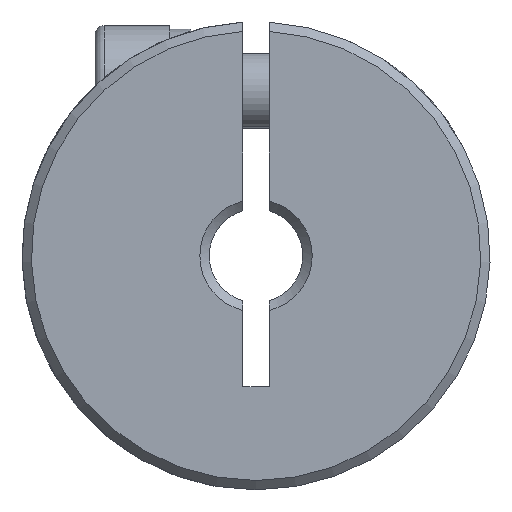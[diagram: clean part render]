
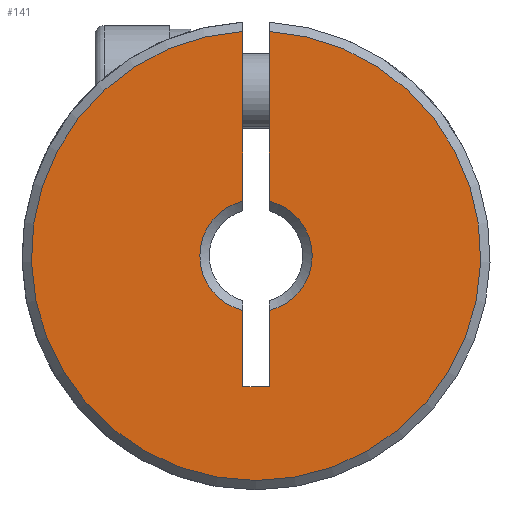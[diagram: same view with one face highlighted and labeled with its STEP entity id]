
A CAD part, front view. The second image highlights one B-rep face of the part: STEP entity #141.
In plain terms, the highlighted planar face has unit normal (0, -1, 0).
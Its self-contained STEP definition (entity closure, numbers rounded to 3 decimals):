
#19 = ORIENTED_EDGE ( 'NONE', *, *, #2633, .F. ) ;
#24 = DIRECTION ( 'NONE',  ( 0., 1., 0. ) ) ;
#48 = ORIENTED_EDGE ( 'NONE', *, *, #192, .T. ) ;
#65 = VECTOR ( 'NONE', #1630, 1000. ) ;
#92 = EDGE_LOOP ( 'NONE', ( #2878, #2383, #2604, #497, #662, #48, #19, #2274 ) ) ;
#141 = ADVANCED_FACE ( 'NONE', ( #694 ), #2085, .F. ) ;
#149 = CARTESIAN_POINT ( 'NONE',  ( -0.7, 0.25, -7. ) ) ;
#183 = CARTESIAN_POINT ( 'NONE',  ( 0., 0.25, 0. ) ) ;
#192 = EDGE_CURVE ( 'NONE', #3394, #3051, #2662, .T. ) ;
#224 = EDGE_CURVE ( 'NONE', #2185, #2398, #3166, .T. ) ;
#242 = AXIS2_PLACEMENT_3D ( 'NONE', #997, #1833, #1283 ) ;
#255 = EDGE_CURVE ( 'NONE', #2463, #2185, #2951, .T. ) ;
#301 = DIRECTION ( 'NONE',  ( 1., 0., 0. ) ) ;
#312 = CARTESIAN_POINT ( 'NONE',  ( 0.7, 0.25, -7. ) ) ;
#315 = CIRCLE ( 'NONE', #3093, 3. ) ;
#370 = AXIS2_PLACEMENT_3D ( 'NONE', #1026, #2884, #2345 ) ;
#400 = CARTESIAN_POINT ( 'NONE',  ( 0.7, 0.25, 11.98 ) ) ;
#446 = VERTEX_POINT ( 'NONE', #707 ) ;
#460 = EDGE_CURVE ( 'NONE', #1391, #2398, #315, .T. ) ;
#476 = LINE ( 'NONE', #1317, #2581 ) ;
#497 = ORIENTED_EDGE ( 'NONE', *, *, #255, .F. ) ;
#517 = CARTESIAN_POINT ( 'NONE',  ( 0.7, 0.25, -7. ) ) ;
#662 = ORIENTED_EDGE ( 'NONE', *, *, #1320, .F. ) ;
#694 = FACE_OUTER_BOUND ( 'NONE', #92, .T. ) ;
#707 = CARTESIAN_POINT ( 'NONE',  ( -0.7, 0.25, 11.98 ) ) ;
#748 = EDGE_CURVE ( 'NONE', #1391, #1075, #990, .T. ) ;
#772 = LINE ( 'NONE', #3208, #65 ) ;
#777 = AXIS2_PLACEMENT_3D ( 'NONE', #1062, #24, #1097 ) ;
#835 = CARTESIAN_POINT ( 'NONE',  ( 0.7, 0.25, 2.917 ) ) ;
#990 = LINE ( 'NONE', #517, #3238 ) ;
#997 = CARTESIAN_POINT ( 'NONE',  ( 12.5, 0.25, -50. ) ) ;
#1026 = CARTESIAN_POINT ( 'NONE',  ( 0., 0.25, 0. ) ) ;
#1062 = CARTESIAN_POINT ( 'NONE',  ( 0., 0.25, 0. ) ) ;
#1075 = VERTEX_POINT ( 'NONE', #400 ) ;
#1077 = DIRECTION ( 'NONE',  ( 0., 0., 1. ) ) ;
#1097 = DIRECTION ( 'NONE',  ( 0., 0., 1. ) ) ;
#1266 = DIRECTION ( 'NONE',  ( 0., 1., 0. ) ) ;
#1283 = DIRECTION ( 'NONE',  ( 0., 0., 1. ) ) ;
#1317 = CARTESIAN_POINT ( 'NONE',  ( -0.7, 0.25, -7. ) ) ;
#1320 = EDGE_CURVE ( 'NONE', #3394, #2463, #772, .T. ) ;
#1391 = VERTEX_POINT ( 'NONE', #835 ) ;
#1593 = CIRCLE ( 'NONE', #370, 12. ) ;
#1630 = DIRECTION ( 'NONE',  ( 0., 0., -1. ) ) ;
#1833 = DIRECTION ( 'NONE',  ( 0., 1., 0. ) ) ;
#1882 = DIRECTION ( 'NONE',  ( 0., 0., -1. ) ) ;
#1920 = CARTESIAN_POINT ( 'NONE',  ( 0.7, 0.25, -7. ) ) ;
#2008 = VECTOR ( 'NONE', #301, 1000. ) ;
#2085 = PLANE ( 'NONE',  #242 ) ;
#2185 = VERTEX_POINT ( 'NONE', #2816 ) ;
#2274 = ORIENTED_EDGE ( 'NONE', *, *, #2531, .T. ) ;
#2345 = DIRECTION ( 'NONE',  ( 0., 0., 1. ) ) ;
#2383 = ORIENTED_EDGE ( 'NONE', *, *, #460, .T. ) ;
#2398 = VERTEX_POINT ( 'NONE', #3305 ) ;
#2462 = DIRECTION ( 'NONE',  ( 0., 0., 1. ) ) ;
#2463 = VERTEX_POINT ( 'NONE', #149 ) ;
#2531 = EDGE_CURVE ( 'NONE', #446, #1075, #1593, .T. ) ;
#2581 = VECTOR ( 'NONE', #1882, 1000. ) ;
#2604 = ORIENTED_EDGE ( 'NONE', *, *, #224, .F. ) ;
#2605 = DIRECTION ( 'NONE',  ( 0., 0., 1. ) ) ;
#2623 = VECTOR ( 'NONE', #2462, 1000. ) ;
#2633 = EDGE_CURVE ( 'NONE', #446, #3051, #476, .T. ) ;
#2662 = CIRCLE ( 'NONE', #777, 3. ) ;
#2816 = CARTESIAN_POINT ( 'NONE',  ( 0.7, 0.25, -7. ) ) ;
#2878 = ORIENTED_EDGE ( 'NONE', *, *, #748, .F. ) ;
#2884 = DIRECTION ( 'NONE',  ( 0., -1., 0. ) ) ;
#2951 = LINE ( 'NONE', #312, #2008 ) ;
#3051 = VERTEX_POINT ( 'NONE', #3410 ) ;
#3093 = AXIS2_PLACEMENT_3D ( 'NONE', #183, #1266, #2605 ) ;
#3166 = LINE ( 'NONE', #1920, #2623 ) ;
#3208 = CARTESIAN_POINT ( 'NONE',  ( -0.7, 0.25, -7. ) ) ;
#3238 = VECTOR ( 'NONE', #1077, 1000. ) ;
#3305 = CARTESIAN_POINT ( 'NONE',  ( 0.7, 0.25, -2.917 ) ) ;
#3334 = CARTESIAN_POINT ( 'NONE',  ( -0.7, 0.25, -2.917 ) ) ;
#3394 = VERTEX_POINT ( 'NONE', #3334 ) ;
#3410 = CARTESIAN_POINT ( 'NONE',  ( -0.7, 0.25, 2.917 ) ) ;
